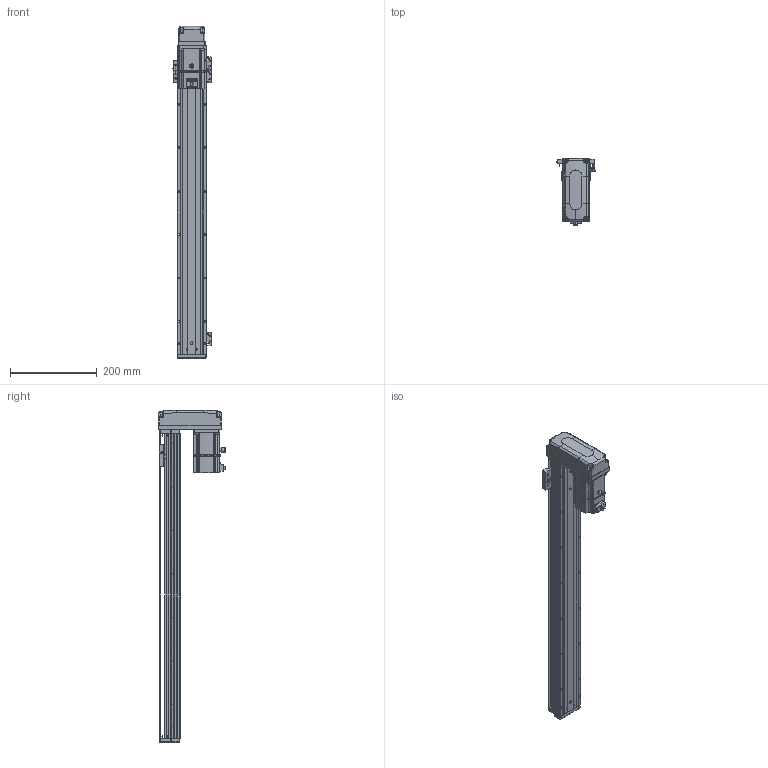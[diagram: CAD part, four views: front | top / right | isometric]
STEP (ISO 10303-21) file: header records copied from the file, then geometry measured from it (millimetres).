
FILE_DESCRIPTION (( 'STEP AP203' ), '1' );
FILE_NAME ('KTHA60-600-BM-M20-C4L.step', '2022-12-16T01:36:06', ( '微软用户' ), ( '微软中国' ), 'SwSTEP 2.0', 'SolidWorks 2020', '' );
FILE_SCHEMA (( 'CONFIG_CONTROL_DESIGN' ));
Length unit declared in the file: millimetre
Products named in the file (17): GBT 70.3-M3℅6; _X2_4E0983F1_X0_200W_1; EE_SX911P_R; KTHA60-600-BM-M20-C4L; CTHA60-017; KTHA60-001_700; CTHA60-021; CTHA60-016; KTHA60-004; GBT 70.1-M4×16; KTHA60-002; KTHA60-005; GBT77-2000M3-3; BTH80-026; GB¨uT 70.2-M3¡Á5_M3¡Á6; GBT 70.1-M3℅6; CTHA60-006-2_CTHA60-006-2
Assembly tree (51 placements, depth 2):
  KTHA60-600-BM-M20-C4L
    KTHA60-001_700
    KTHA60-004
    KTHA60-005
    GB¨uT 70.2-M3¡Á5_M3¡Á6  x6
    GBT 70.3-M3℅6  x4
    EE_SX911P_R  x3
    CTHA60-017  x3
    CTHA60-021  x2
    GBT 70.1-M4×16  x8
    GBT77-2000M3-3  x6
    GBT 70.1-M3℅6  x10
    CTHA60-016  x2
    KTHA60-002
    BTH80-026
    CTHA60-006-2_CTHA60-006-2
    _X2_4E0983F1_X0_200W_1
Bounding box: 87.72 x 155.2 x 764 mm (x, y, z)
Volume: 1627875.9 mm3; surface area: 431067.2 mm2
Topology: 54 solids, 54 shells, 2468 faces, 5885 edges, 3622 vertices
Faces by surface type: plane 1309, cylinder 656, cone 286, bspline 109, torus 92, sphere 16
Entity records: 46178 total; most frequent: CARTESIAN_POINT 10706, ORIENTED_EDGE 6818, DIRECTION 6808, EDGE_CURVE 3409, AXIS2_PLACEMENT_3D 2343, VERTEX_POINT 2131, VECTOR 2122, LINE 2122
